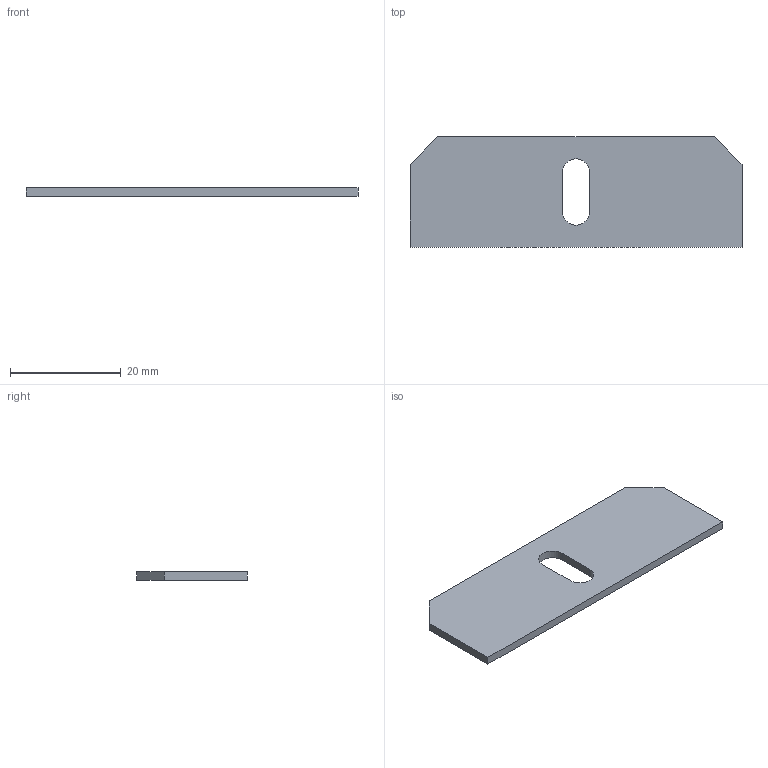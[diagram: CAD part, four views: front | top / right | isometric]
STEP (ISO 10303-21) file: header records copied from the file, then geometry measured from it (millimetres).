
FILE_DESCRIPTION (( 'STEP AP203' ), '1' );
FILE_NAME ('ORW-62.24.10.006 砑鳧罻.STEP', '2025-10-13T13:18:08', ( '燴僽樥' ), ( '' ), 'SwSTEP 2.0', 'SolidWorks 2025', '' );
FILE_SCHEMA (( 'CONFIG_CONTROL_DESIGN' ));
Length unit declared in the file: millimetre
Products named in the file (1): ORW-62.24.10.006 Планка
Bounding box: 60 x 20 x 1.5 mm (x, y, z)
Volume: 1680.5 mm3; surface area: 2516.5 mm2
Topology: 1 solids, 1 shells, 12 faces, 30 edges, 20 vertices
Faces by surface type: plane 10, cylinder 2
Entity records: 437 total; most frequent: CARTESIAN_POINT 63, ORIENTED_EDGE 60, DIRECTION 60, EDGE_CURVE 30, LINE 26, VECTOR 26, VERTEX_POINT 20, AXIS2_PLACEMENT_3D 17
